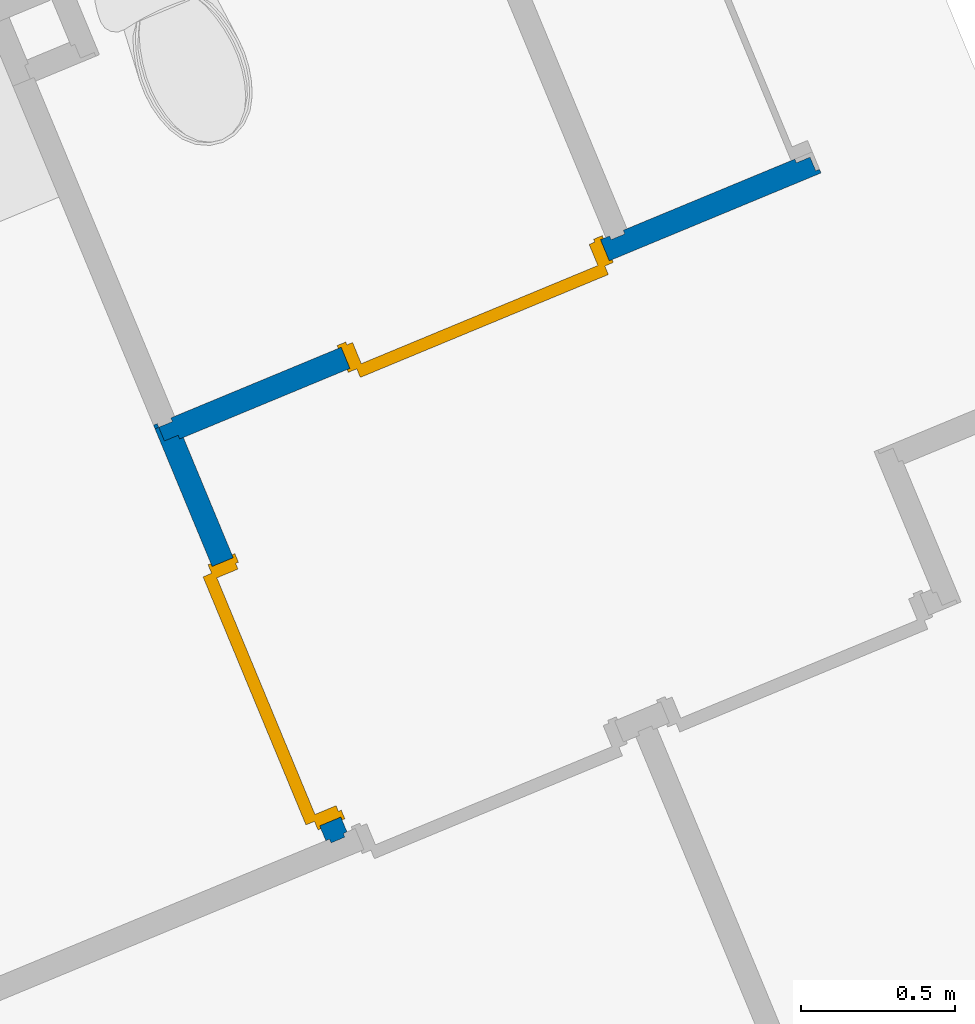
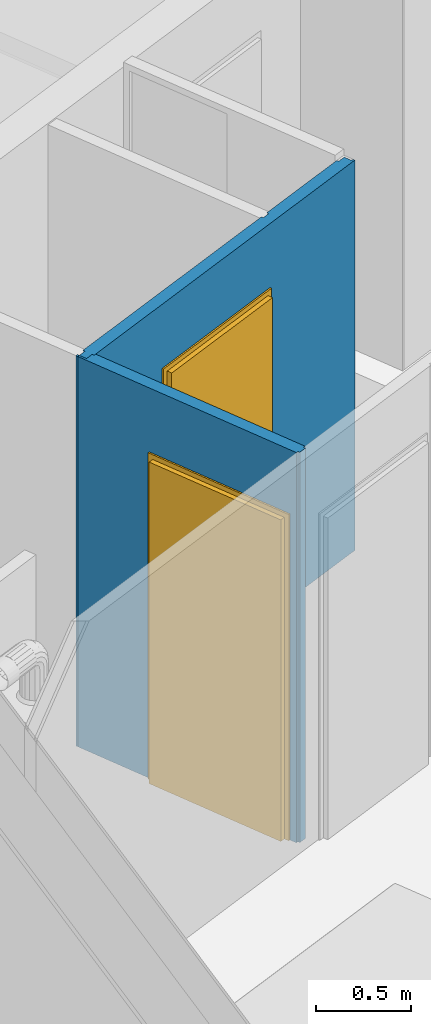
# One storey, part 11 of 119: 2 doors, 2 walls, 2 openings.
"""IFC2X3 building model written with IfcOpenShell, lengths in metres."""

from ifc_helpers import new_model, entity, si_unit, converted_unit, derived_unit, money_unit, direction, frame, origin_with_axes, place, context, subcontext, project, spatial, faceted_brep, source, transform, mapped, material, material_list, type_object, element, fill, save


model = new_model("IFC2X3")

# Units and contexts
model_context = context("Model", 3, precision=1e-05, world=origin_with_axes(), true_north=direction((0.0, 1.0)))
body_context = subcontext(model_context, "Body", "Model", "MODEL_VIEW")
ifc_project = project(units=[si_unit("LENGTHUNIT", "METRE"), si_unit("AREAUNIT", "SQUARE_METRE"), si_unit("VOLUMEUNIT", "CUBIC_METRE"), converted_unit("PLANEANGLEUNIT", "DEGREE", entity("IfcPlaneAngleMeasure", 0.0174532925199), si_unit("PLANEANGLEUNIT", "RADIAN"), dimensions=[0, 0, 0, 0, 0, 0, 0]), si_unit("SOLIDANGLEUNIT", "STERADIAN"), money_unit("EUR"), converted_unit("TIMEUNIT", "Year", entity("IfcTimeMeasure", 31556926.0), si_unit("TIMEUNIT", "SECOND"), dimensions=[0, 0, 1, 0, 0, 0, 0]), si_unit("MASSUNIT", "GRAM", prefix="KILO"), si_unit("THERMODYNAMICTEMPERATUREUNIT", "DEGREE_CELSIUS"), si_unit("LUMINOUSINTENSITYUNIT", "LUMEN"), si_unit("ENERGYUNIT", "JOULE", prefix="MEGA"), derived_unit("THERMALCONDUCTANCEUNIT", [(si_unit("POWERUNIT", "WATT"), 1), (si_unit("LENGTHUNIT", "METRE"), -1), (si_unit("THERMODYNAMICTEMPERATUREUNIT", "KELVIN"), -1)]), derived_unit("SPECIFICHEATCAPACITYUNIT", [(si_unit("ENERGYUNIT", "JOULE"), 1), (si_unit("MASSUNIT", "GRAM", prefix="KILO"), -1), (si_unit("THERMODYNAMICTEMPERATUREUNIT", "KELVIN"), -1)]), derived_unit("MASSDENSITYUNIT", [(si_unit("MASSUNIT", "GRAM", prefix="KILO"), 1), (si_unit("VOLUMEUNIT", "CUBIC_METRE"), -1)])], contexts=[model_context])

# Site, building, storey
site_placement = place(None, origin_with_axes())
site = spatial("IfcSite", under=ifc_project, at=site_placement, Name="Site", CompositionType="ELEMENT")
building_placement = place(site_placement, origin_with_axes())
building = spatial("IfcBuilding", under=site, at=building_placement, Name="Bâtiment", CompositionType="ELEMENT")
storey_placement = place(building_placement, origin_with_axes())
storey = spatial("IfcBuildingStorey", under=building, at=storey_placement, Name="Rez-de-chaussée", CompositionType="ELEMENT", Elevation=0.0)

# Wall, opening, door
ifc_material_1 = material(Name="Finition int - Plaque de plâtre")
ifc_material_2 = material(Name="Isolation - Laine de roche")
ifc_material_list = material_list([ifc_material_1, ifc_material_2, ifc_material_1])
wall_type = type_object("IfcWallType", Name="3 - Cloison 72mm Placostil 74", PredefinedType="USERDEFINED")
wall_1_placement = place(storey_placement, frame((-19.5274599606, -22.5640409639, 0.0), z_axis=(0.0, 0.0, 1.0), x_axis=(0.923701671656, 0.383112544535, 0.0)))
wall_1 = element("IfcWall", 1, at=wall_1_placement, inside=storey, type_object=wall_type, material=ifc_material_list, Name="Cloison Placostil 72/48", ObjectType="PARTITIONING", context=body_context, shape_type="Brep", body=[
    faceted_brep([(-0.073999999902, 0.061, 0.0), (-0.060999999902, 0.061, 0.0), (-0.060999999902, 0.061, 2.5), (-0.073999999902, 0.061, 2.5), (-0.0739999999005, 0.074, 0.0), (-0.060999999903, 0.074, 0.0), (-0.060999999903, 0.074, 2.5), (-0.0739999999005, 0.074, 2.5)], [[[0, 1, 2, 3]], [[4, 5, 1, 0]], [[5, 6, 2, 1]], [[3, 2, 6, 7]], [[3, 7, 4, 0]], [[7, 6, 5, 4]]]),
    faceted_brep([(0.58436218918, 0.061, 0.0), (0.58436218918, 0.061, 2.08), (1.49436218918, 0.061, 2.08), (1.49436218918, 0.061, 0.0), (1.52599999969, 0.061, 0.0), (1.52599999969, 0.061, 2.5), (-0.013, 0.061, 2.5), (-0.013, 0.061, 0.0), (0.58436218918, 0.074, 0.0), (0.58436218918, 0.074, 2.08), (1.49436218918, 0.074, 2.08), (1.49436218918, 0.074, 0.0), (1.52599999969, 0.074, 0.0), (1.52599999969, 0.074, 2.5), (-0.013, 0.074, 2.5), (-0.013, 0.074, 0.0)], [[[0, 1, 2, 3, 4, 5, 6, 7]], [[1, 0, 8, 9]], [[2, 1, 9, 10]], [[3, 2, 10, 11]], [[3, 11, 12, 4]], [[4, 12, 13, 5]], [[14, 6, 5, 13]], [[7, 6, 14, 15]], [[8, 0, 7, 15]], [[9, 8, 15, 14, 13, 12, 11, 10]]]),
    faceted_brep([(2.1759999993, 0.074, 0.0), (2.17599999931, 0.061, 0.0), (1.57399999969, 0.061, 0.0), (1.57399999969, 0.074, 0.0), (2.1759999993, 0.074, 2.5), (2.17599999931, 0.061, 2.5), (1.57399999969, 0.061, 2.5), (1.57399999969, 0.074, 2.5)], [[[0, 1, 2, 3]], [[1, 0, 4, 5]], [[1, 5, 6, 2]], [[7, 3, 2, 6]], [[4, 0, 3, 7]], [[5, 4, 7, 6]]]),
    faceted_brep([(0.58436218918, 0.013, 0.0), (0.58436218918, 0.013, 2.08), (1.49436218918, 0.013, 2.08), (1.49436218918, 0.013, 0.0), (2.22399999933, 0.013, 0.0), (2.22399999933, 0.013, 2.5), (-0.0609999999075, 0.013, 2.5), (-0.0609999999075, 0.013, 0.0), (0.58436218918, 0.061, 0.0), (0.58436218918, 0.061, 2.08), (1.49436218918, 0.061, 2.08), (1.49436218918, 0.061, 0.0), (2.22399999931, 0.061, 0.0), (2.22399999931, 0.061, 2.5), (-0.060999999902, 0.061, 2.5), (-0.060999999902, 0.061, 0.0)], [[[0, 1, 2, 3, 4, 5, 6, 7]], [[1, 0, 8, 9]], [[2, 1, 9, 10]], [[3, 2, 10, 11]], [[3, 11, 12, 4]], [[4, 12, 13, 5]], [[5, 13, 14, 6]], [[14, 15, 7, 6]], [[8, 0, 7, 15]], [[9, 8, 15, 14, 13, 12, 11, 10]]]),
    faceted_brep([(0.58436218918, 0.0, 0.0), (0.58436218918, 0.0, 2.08), (1.49436218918, 0.0, 2.08), (1.49436218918, 0.0, 0.0), (2.23699999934, 0.0, 0.0), (2.23699999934, 0.0, 2.5), (-0.012999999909, 0.0, 2.5), (-0.012999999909, 0.0, 0.0), (0.58436218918, 0.013, 0.0), (0.58436218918, 0.013, 2.08), (1.49436218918, 0.013, 2.08), (1.49436218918, 0.013, 0.0), (2.23699999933, 0.013, 0.0), (2.23699999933, 0.013, 2.5), (-0.0129999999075, 0.013, 2.5), (-0.0129999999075, 0.013, 0.0)], [[[0, 1, 2, 3, 4, 5, 6, 7]], [[1, 0, 8, 9]], [[2, 1, 9, 10]], [[3, 2, 10, 11]], [[3, 11, 12, 4]], [[12, 13, 5, 4]], [[13, 14, 6, 5]], [[15, 7, 6, 14]], [[8, 0, 7, 15]], [[9, 8, 15, 14, 13, 12, 11, 10]]]),
])
opening_1_placement = place(wall_1_placement, frame((1.03936218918, 0.0, 0.0), z_axis=(0.0, 0.0, 1.0), x_axis=(1.0, 0.0, 0.0)))
opening_1 = element("IfcOpeningElement", 2, at=opening_1_placement, cuts=wall_1, Name="Porte 83x204 bois alvéolaire", context=body_context, shape_type="Brep", body=[
    faceted_brep([(-0.455, 0.074, 0.0), (0.455, 0.074, 0.0), (0.455, -0.074, 0.0), (-0.455, -0.074, 0.0), (-0.455, 0.074, 2.08), (0.455, 0.074, 2.08), (0.455, -0.074, 2.08), (-0.455, -0.074, 2.08)], [[[0, 1, 2, 3]], [[0, 4, 5, 1]], [[1, 5, 6, 2]], [[3, 2, 6, 7]], [[4, 0, 3, 7]], [[5, 4, 7, 6]]]),
])
door_style_1 = type_object("IfcDoorStyle", Name="Porte int générique 2019", ConstructionType="NOTDEFINED", OperationType="SINGLE_SWING_RIGHT", ParameterTakesPrecedence=False, Sizeable=False)
shared_shape_1 = source(origin_with_axes(), body_context, "Body", "Brep", [
    faceted_brep([(0.455, 0.0, 0.0), (0.415, 0.0, 0.0), (0.415, 0.0, 2.04), (-0.415, 0.0, 2.04), (-0.415, 0.0, 0.0), (-0.455, 0.0, 0.0), (-0.455, 0.0, 2.08), (0.455, 0.0, 2.08), (0.455, -0.074, 0.0), (0.415, -0.074, 0.0), (0.415, -0.074, 2.04), (-0.415, -0.074, 2.04), (-0.415, -0.074, 0.0), (-0.455, -0.074, 0.0), (-0.455, -0.074, 2.08), (0.455, -0.074, 2.08)], [[[0, 1, 2, 3, 4, 5, 6, 7]], [[0, 8, 9, 1]], [[1, 9, 10, 2]], [[2, 10, 11, 3]], [[3, 11, 12, 4]], [[5, 4, 12, 13]], [[14, 6, 5, 13]], [[15, 7, 6, 14]], [[8, 0, 7, 15]], [[9, 8, 15, 14, 13, 12, 11, 10]]]),
    faceted_brep([(0.465, 0.0, 0.0), (0.465, 0.01, 0.0), (0.465, 0.01, 2.09), (0.465, 0.0, 2.09), (0.435, 0.0, 0.0), (0.435, 0.01, 0.0), (0.435, 0.01, 2.06), (-0.435, 0.01, 2.06), (-0.435, 0.01, 0.0), (-0.465, 0.01, 0.0), (-0.465, 0.01, 2.09), (-0.465, 0.0, 2.09), (-0.465, 0.0, 0.0), (-0.435, 0.0, 0.0), (-0.435, 0.0, 2.06), (0.435, 0.0, 2.06)], [[[0, 1, 2, 3]], [[0, 4, 5, 1]], [[1, 5, 6, 7, 8, 9, 10, 2]], [[3, 2, 10, 11]], [[4, 0, 3, 11, 12, 13, 14, 15]], [[5, 4, 15, 6]], [[6, 15, 14, 7]], [[7, 14, 13, 8]], [[12, 9, 8, 13]], [[11, 10, 9, 12]]]),
    faceted_brep([(0.465, -0.084, 0.0), (0.465, -0.074, 0.0), (0.465, -0.074, 2.09), (0.465, -0.084, 2.09), (0.435, -0.084, 0.0), (0.435, -0.074, 0.0), (0.435, -0.074, 2.06), (-0.435, -0.074, 2.06), (-0.435, -0.074, 0.0), (-0.465, -0.074, 0.0), (-0.465, -0.074, 2.09), (-0.465, -0.084, 2.09), (-0.465, -0.084, 0.0), (-0.435, -0.084, 0.0), (-0.435, -0.084, 2.06), (0.435, -0.084, 2.06)], [[[0, 1, 2, 3]], [[0, 4, 5, 1]], [[1, 5, 6, 7, 8, 9, 10, 2]], [[3, 2, 10, 11]], [[4, 0, 3, 11, 12, 13, 14, 15]], [[5, 4, 15, 6]], [[6, 15, 14, 7]], [[7, 14, 13, 8]], [[12, 9, 8, 13]], [[11, 10, 9, 12]]]),
    faceted_brep([(0.435, 0.04, 0.0), (0.435, 0.0, 0.0), (-0.435, 0.0, 0.0), (-0.435, 0.04, 0.0), (0.435, 0.04, 2.06), (0.435, 0.0, 2.06), (-0.435, 0.0, 2.06), (-0.435, 0.04, 2.06)], [[[0, 1, 2, 3]], [[4, 5, 1, 0]], [[1, 5, 6, 2]], [[3, 2, 6, 7]], [[0, 3, 7, 4]], [[7, 6, 5, 4]]]),
])
door_1_placement = place(opening_1_placement, frame((0.415, 0.0, 0.0), z_axis=(0.0, 0.0, 1.0), x_axis=(-1.0, 0.0, 0.0)))
door_1 = element("IfcDoor", 3, at=door_1_placement, inside=storey, type_object=door_style_1, Name="Porte 83x204 bois alvéolaire", ObjectType="DOOR", OverallHeight=2.04, OverallWidth=0.83, context=body_context, shape_type="MappedRepresentation", body=[
    mapped(shared_shape_1, transform((0.415, 0.0, 0.0))),
])
fill(opening_1, door_1)

wall_2_placement = place(storey_placement, frame((-19.5274599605, -22.5640409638, 0.0), z_axis=(0.0, 0.0, 1.0), x_axis=(0.383112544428, -0.9237016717, 0.0)))
wall_2 = element("IfcWall", 4, at=wall_2_placement, inside=storey, type_object=wall_type, material=ifc_material_list, Name="Cloison Placostil 72/48", ObjectType="PARTITIONING", context=body_context, shape_type="Brep", body=[
    faceted_brep([(0.421831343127, 0.0, 2.08), (0.421831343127, 0.0, 0.0), (0.0, 0.0, 0.0), (0.0, 0.0, 2.5), (1.38390078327, 0.0, 2.5), (1.38390078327, 0.0, 0.0), (1.33183134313, 0.0, 0.0), (1.33183134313, 0.0, 2.08), (0.421831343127, -0.013, 2.08), (0.421831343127, -0.013, 0.0), (0.0, -0.013, 0.0), (0.0, -0.013, 2.5), (1.38390078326, -0.013, 2.5), (1.38390078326, -0.013, 0.0), (1.33183134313, -0.013, 0.0), (1.33183134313, -0.013, 2.08)], [[[0, 1, 2, 3, 4, 5, 6, 7]], [[1, 0, 8, 9]], [[1, 9, 10, 2]], [[11, 3, 2, 10]], [[4, 3, 11, 12]], [[12, 13, 5, 4]], [[14, 6, 5, 13]], [[7, 6, 14, 15]], [[0, 7, 15, 8]], [[15, 14, 13, 12, 11, 10, 9, 8]]]),
    faceted_brep([(0.421831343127, -0.013, 2.08), (0.421831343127, -0.013, 0.0), (-0.0129999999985, -0.013, 0.0), (-0.0129999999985, -0.013, 2.5), (1.39690078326, -0.013, 2.5), (1.39690078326, -0.013, 0.0), (1.33183134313, -0.013, 0.0), (1.33183134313, -0.013, 2.08), (0.421831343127, -0.061, 2.08), (0.421831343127, -0.061, 0.0), (-0.0129999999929, -0.061, 0.0), (-0.0129999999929, -0.061, 2.5), (1.39690078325, -0.061, 2.5), (1.39690078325, -0.061, 0.0), (1.33183134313, -0.061, 0.0), (1.33183134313, -0.061, 2.08)], [[[0, 1, 2, 3, 4, 5, 6, 7]], [[1, 0, 8, 9]], [[1, 9, 10, 2]], [[11, 3, 2, 10]], [[4, 3, 11, 12]], [[12, 13, 5, 4]], [[14, 6, 5, 13]], [[7, 6, 14, 15]], [[0, 7, 15, 8]], [[15, 14, 13, 12, 11, 10, 9, 8]]]),
    faceted_brep([(0.421831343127, -0.061, 2.08), (0.421831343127, -0.061, 0.0), (-0.0609999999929, -0.061, 0.0), (-0.0609999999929, -0.061, 2.5), (1.38390078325, -0.061, 2.5), (1.38390078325, -0.061, 0.0), (1.33183134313, -0.061, 0.0), (1.33183134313, -0.061, 2.08), (0.421831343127, -0.074, 2.08), (0.421831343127, -0.074, 0.0), (-0.0609999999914, -0.074, 0.0), (-0.0609999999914, -0.074, 2.5), (1.38390078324, -0.074, 2.5), (1.38390078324, -0.074, 0.0), (1.33183134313, -0.074, 0.0), (1.33183134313, -0.074, 2.08)], [[[0, 1, 2, 3, 4, 5, 6, 7]], [[1, 0, 8, 9]], [[1, 9, 10, 2]], [[10, 11, 3, 2]], [[12, 4, 3, 11]], [[4, 12, 13, 5]], [[14, 6, 5, 13]], [[7, 6, 14, 15]], [[0, 7, 15, 8]], [[15, 14, 13, 12, 11, 10, 9, 8]]]),
])
opening_2_placement = place(wall_2_placement, frame((0.876831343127, 0.0, 0.0), z_axis=(0.0, 0.0, 1.0), x_axis=(1.0, 0.0, 0.0)))
opening_2 = element("IfcOpeningElement", 5, at=opening_2_placement, cuts=wall_2, Name="Porte 83x204 bois alvéolaire", context=body_context, shape_type="Brep", body=[
    faceted_brep([(0.455, -0.074, 0.0), (-0.455, -0.074, 0.0), (-0.455, 0.074, 0.0), (0.455, 0.074, 0.0), (0.455, -0.074, 2.08), (-0.455, -0.074, 2.08), (-0.455, 0.074, 2.08), (0.455, 0.074, 2.08)], [[[0, 1, 2, 3]], [[0, 4, 5, 1]], [[1, 5, 6, 2]], [[3, 2, 6, 7]], [[4, 0, 3, 7]], [[5, 4, 7, 6]]]),
])
door_style_2 = type_object("IfcDoorStyle", Name="Porte int générique 2019", ConstructionType="NOTDEFINED", OperationType="SINGLE_SWING_LEFT", ParameterTakesPrecedence=False, Sizeable=False)
shared_shape_2 = source(origin_with_axes(), body_context, "Body", "Brep", [
    faceted_brep([(-0.455, -0.006, 0.0), (-0.455, -0.006, 2.08), (0.455, -0.006, 2.08), (0.455, -0.006, 0.0), (0.415, -0.006, 0.0), (0.415, -0.006, 2.04), (-0.415, -0.006, 2.04), (-0.415, -0.006, 0.0), (-0.455, -0.08, 0.0), (-0.455, -0.08, 2.08), (0.455, -0.08, 2.08), (0.455, -0.08, 0.0), (0.415, -0.08, 0.0), (0.415, -0.08, 2.04), (-0.415, -0.08, 2.04), (-0.415, -0.08, 0.0)], [[[0, 1, 2, 3, 4, 5, 6, 7]], [[8, 9, 1, 0]], [[9, 10, 2, 1]], [[10, 11, 3, 2]], [[3, 11, 12, 4]], [[5, 4, 12, 13]], [[6, 5, 13, 14]], [[7, 6, 14, 15]], [[0, 7, 15, 8]], [[15, 14, 13, 12, 11, 10, 9, 8]]]),
    faceted_brep([(-0.465, -0.006, 0.0), (-0.465, -0.006, 2.09), (-0.465, 0.004, 2.09), (-0.465, 0.004, 0.0), (-0.435, -0.006, 0.0), (-0.435, -0.006, 2.06), (0.435, -0.006, 2.06), (0.435, -0.006, 0.0), (0.465, -0.006, 0.0), (0.465, -0.006, 2.09), (0.465, 0.004, 2.09), (0.465, 0.004, 0.0), (0.435, 0.004, 0.0), (0.435, 0.004, 2.06), (-0.435, 0.004, 2.06), (-0.435, 0.004, 0.0)], [[[0, 1, 2, 3]], [[4, 5, 6, 7, 8, 9, 1, 0]], [[1, 9, 10, 2]], [[3, 2, 10, 11, 12, 13, 14, 15]], [[0, 3, 15, 4]], [[15, 14, 5, 4]], [[14, 13, 6, 5]], [[13, 12, 7, 6]], [[8, 7, 12, 11]], [[9, 8, 11, 10]]]),
    faceted_brep([(-0.465, -0.09, 0.0), (-0.465, -0.09, 2.09), (-0.465, -0.08, 2.09), (-0.465, -0.08, 0.0), (-0.435, -0.09, 0.0), (-0.435, -0.09, 2.06), (0.435, -0.09, 2.06), (0.435, -0.09, 0.0), (0.465, -0.09, 0.0), (0.465, -0.09, 2.09), (0.465, -0.08, 2.09), (0.465, -0.08, 0.0), (0.435, -0.08, 0.0), (0.435, -0.08, 2.06), (-0.435, -0.08, 2.06), (-0.435, -0.08, 0.0)], [[[0, 1, 2, 3]], [[4, 5, 6, 7, 8, 9, 1, 0]], [[1, 9, 10, 2]], [[3, 2, 10, 11, 12, 13, 14, 15]], [[0, 3, 15, 4]], [[15, 14, 5, 4]], [[14, 13, 6, 5]], [[13, 12, 7, 6]], [[8, 7, 12, 11]], [[9, 8, 11, 10]]]),
    faceted_brep([(-0.435, 0.034, 0.0), (0.435, 0.034, 0.0), (0.435, -0.006, 0.0), (-0.435, -0.006, 0.0), (-0.435, 0.034, 2.06), (0.435, 0.034, 2.06), (0.435, -0.006, 2.06), (-0.435, -0.006, 2.06)], [[[0, 1, 2, 3]], [[0, 4, 5, 1]], [[1, 5, 6, 2]], [[3, 2, 6, 7]], [[4, 0, 3, 7]], [[5, 4, 7, 6]]]),
])
door_2_placement = place(opening_2_placement, frame((0.415, 0.0, 0.0), z_axis=(0.0, 0.0, 1.0), x_axis=(-1.0, 0.0, 0.0)))
door_2 = element("IfcDoor", 6, at=door_2_placement, inside=storey, type_object=door_style_2, Name="Porte 83x204 bois alvéolaire", ObjectType="DOOR", OverallHeight=2.04, OverallWidth=0.83, context=body_context, shape_type="MappedRepresentation", body=[
    mapped(shared_shape_2, transform((0.415, 0.08, 0.0))),
])
fill(opening_2, door_2)

save(model, "model.ifc")
